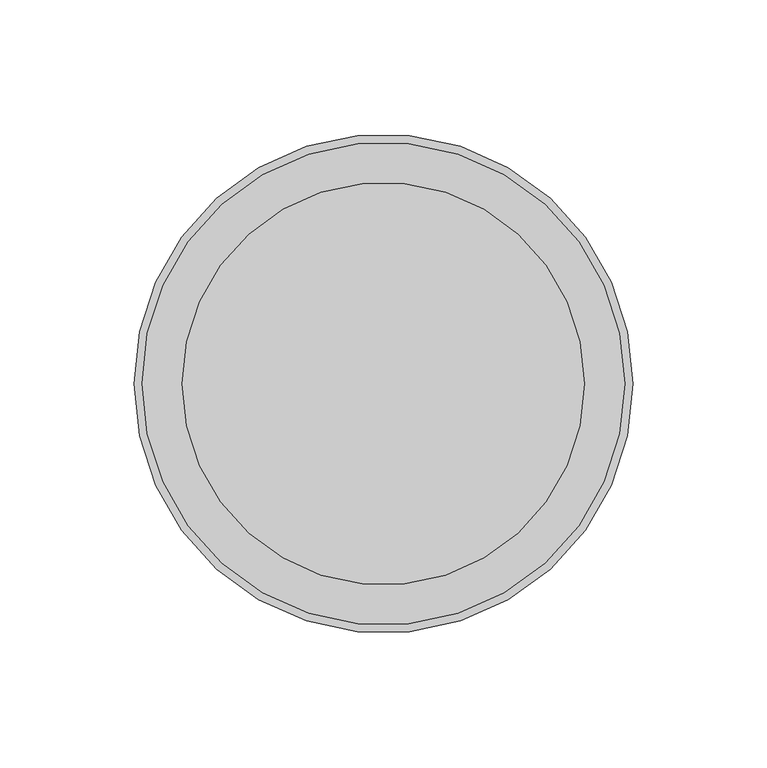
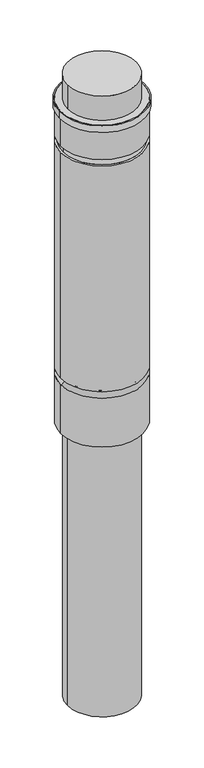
"""IFC4 building model written with IfcOpenShell, lengths in millimetres: air terminal geometry, DERS_431_LD_WPB_flue gas rooftop terminal_M&G : PP Black, ø150."""

from ifc_helpers import new_model, si_unit, point, frame, origin, origin_with_axes, origin_2d, place, context, project, spatial, circle_curve, ellipse_curve, trimmed, segment, composite_curve, outline, extrude, source, transform, mapped, element, save
from ifc_brep_helpers import plane_surface, cylinder_surface, revolved_surface, advanced_brep


def air_terminal_eb749a6a(model_context):
    return source(origin(), model_context, "Body", "SolidModel", [
        advanced_brep(
        [(-90.0, 0.0, 743.0), (90.0, 0.0, 743.0), (-90.0, 0.0, 0.0), (90.0, 0.0, 0.0), (-90.0, 0.0, 663.0), (90.0, 0.0, 663.0), (90.0, 0.0, 112.5), (-90.0, 0.0, 112.5), (90.0, 0.0, 648.0), (-90.0, 0.0, 648.0), (-90.0, 0.0, 127.5), (90.0, 0.0, 127.5), (85.0, 0.0, 663.0), (85.0, 0.0, 648.0), (-85.0, 0.0, 648.0), (-85.0, 0.0, 663.0)],
        [
            (0, 1, circle_curve(frame((0.0, 0.0, 743.0), z_axis=(0.0, 0.0, 1.0), x_axis=(1.0, 0.0, 0.0)), 90.0)),
            (1, 0, circle_curve(frame((0.0, 0.0, 743.0), z_axis=(0.0, 0.0, 1.0), x_axis=(1.0, 0.0, 0.0)), 90.0)),
            (2, 3, circle_curve(frame((0.0, 0.0, 0.0), z_axis=(0.0, 0.0, -1.0), x_axis=(1.0, 0.0, 0.0)), 90.0)),
            (3, 2, circle_curve(frame((0.0, 0.0, 0.0), z_axis=(0.0, 0.0, -1.0), x_axis=(1.0, 0.0, 0.0)), 90.0)),
            (0, 4),
            (4, 5, circle_curve(frame((0.0, 0.0, 663.0), z_axis=(0.0, 0.0, 1.0), x_axis=(1.0, 0.0, 0.0)), 90.0)),
            (5, 1),
            (3, 6),
            (6, 7, circle_curve(frame((0.0, 0.0, 112.5), z_axis=(0.0, 0.0, -1.0), x_axis=(1.0, 0.0, 0.0)), 90.0)),
            (7, 2),
            (8, 9, circle_curve(frame((0.0, 0.0, 648.0), z_axis=(0.0, 0.0, -1.0), x_axis=(1.0, 0.0, 0.0)), 90.0)),
            (9, 10),
            (10, 11, circle_curve(frame((0.0, 0.0, 127.5), z_axis=(0.0, 0.0, 1.0), x_axis=(1.0, 0.0, 0.0)), 90.0)),
            (11, 8),
            (5, 4, circle_curve(frame((0.0, 0.0, 663.0), z_axis=(0.0, 0.0, 1.0), x_axis=(1.0, 0.0, 0.0)), 90.0)),
            (7, 6, circle_curve(frame((0.0, 0.0, 112.5), z_axis=(0.0, 0.0, -1.0), x_axis=(1.0, 0.0, 0.0)), 90.0)),
            (9, 8, circle_curve(frame((0.0, 0.0, 648.0), z_axis=(0.0, 0.0, -1.0), x_axis=(1.0, 0.0, 0.0)), 90.0)),
            (11, 10, circle_curve(frame((0.0, 0.0, 127.5), z_axis=(0.0, 0.0, 1.0), x_axis=(1.0, 0.0, 0.0)), 90.0)),
            (12, 13),
            (13, 14, circle_curve(frame((0.0, 0.0, 648.0), z_axis=(0.0, 0.0, 1.0), x_axis=(-1.0, 0.0, 0.0)), 85.0)),
            (14, 15),
            (15, 12, circle_curve(frame((0.0, 0.0, 663.0), z_axis=(0.0, 0.0, -1.0), x_axis=(-1.0, 0.0, 0.0)), 85.0)),
            (15, 12, circle_curve(frame((0.0, 0.0, 663.0), z_axis=(0.0, 0.0, 1.0), x_axis=(1.0, 0.0, 0.0)), 85.0)),
            (13, 14, circle_curve(frame((0.0, 0.0, 648.0), z_axis=(0.0, 0.0, -1.0), x_axis=(1.0, 0.0, 0.0)), 85.0)),
            (7, 10, circle_curve(frame((-90.0, 0.0, 120.0), z_axis=(0.0, -1.0, 0.0), x_axis=(-1.0, 0.0, 0.0)), 7.5)),
            (11, 6, circle_curve(frame((90.0, 0.0, 120.0), z_axis=(0.0, -1.0, 0.0), x_axis=(1.0, 0.0, 0.0)), 7.5)),
        ],
        [
            plane_surface(frame((90.0, 0.0, 743.0), z_axis=(0.0, 0.0, 1.0), x_axis=(0.0, 1.0, 0.0))),
            plane_surface(frame((90.0, 0.0, 0.0), z_axis=(0.0, 0.0, -1.0), x_axis=(0.0, -1.0, 0.0))),
            cylinder_surface(origin_with_axes(), 90.0),
            cylinder_surface(frame((0.0, 0.0, 743.0), z_axis=(0.0, 0.0, -1.0), x_axis=(-1.0, 0.0, 0.0)), 85.0),
            plane_surface(frame((0.0, 0.0, 663.0), z_axis=(0.0, 0.0, -1.0), x_axis=(1.0, 0.0, 0.0))),
            plane_surface(frame((0.0, 0.0, 648.0), z_axis=(0.0, 0.0, 1.0), x_axis=(1.0, 0.0, 0.0))),
            cylinder_surface(frame((0.0, 0.0, 743.0), z_axis=(0.0, 0.0, -1.0), x_axis=(1.0, 0.0, 0.0)), 85.0),
            revolved_surface(trimmed(ellipse_curve(frame((90.0, 0.0, 120.0), z_axis=(0.0, 1.0, 0.0), x_axis=(1.0, 0.0, 0.0)), 7.5, 7.5), [point((90.0, 0.0, 112.5))], [point((90.0, 0.0, 127.5))], True, "CARTESIAN"), (0.0, 0.0, 0.0), (0.0, 0.0, 1.0)),
            revolved_surface(trimmed(ellipse_curve(frame((-90.0, 0.0, 120.0), z_axis=(0.0, -1.0, 0.0), x_axis=(-1.0, 0.0, 0.0)), 7.5, 7.5), [point((-90.0, 0.0, 112.5))], [point((-90.0, 0.0, 127.5))], True, "CARTESIAN"), (0.0, 0.0, 0.0), (0.0, 0.0, 1.0)),
        ],
        [
            (0, [[1, 2]]),
            (1, [[3, 4]]),
            (2, [[-1, 5, 6, 7]]),
            (2, [[-4, 8, 9, 10]]),
            (2, [[11, 12, 13, 14]]),
            (2, [[-2, -7, 15, -5]]),
            (2, [[-3, -10, 16, -8]]),
            (2, [[17, -14, 18, -12]]),
            (3, [[19, 20, 21, 22]]),
            (4, [[-6, -15], [-22, 23]]),
            (5, [[-11, -17], [-20, 24]]),
            (6, [[-19, -23, -21, -24]]),
            (7, [[25, -18, 26, -16]]),
            (8, [[-25, -9, -26, -13]]),
        ],
    ),
        extrude(outline(composite_curve([segment(trimmed(circle_curve(origin_2d(), 93.0), [point((-93.0, 0.0))], [point((93.0, 0.0))], False, "CARTESIAN"), True, "CONTINUOUS"), segment(trimmed(circle_curve(origin_2d(), 93.0), [point((93.0, 0.0))], [point((-93.0, 0.0))], False, "CARTESIAN"), True, "CONTINUOUS")], self_intersect=False), holes=[composite_curve([segment(trimmed(circle_curve(origin_2d(), 90.0), [point((90.0, 0.0))], [point((-90.0, 0.0))], True, "CARTESIAN"), True, "CONTINUOUS"), segment(trimmed(circle_curve(origin_2d(), 90.0), [point((-90.0, 0.0))], [point((90.0, 0.0))], True, "CARTESIAN"), True, "CONTINUOUS")], self_intersect=False)]), frame((0.0, 0.0, 728.0), z_axis=(0.0, 0.0, 1.0), x_axis=(1.0, 0.0, 0.0)), (0.0, 0.0, 1.0), 15.0),
        extrude(outline(composite_curve([segment(trimmed(circle_curve(origin_2d(), 75.0), [point((75.0, 0.0))], [point((-75.0, 0.0))], False, "CARTESIAN"), True, "CONTINUOUS"), segment(trimmed(circle_curve(origin_2d(), 75.0), [point((-75.0, 0.0))], [point((75.0, 0.0))], False, "CARTESIAN"), True, "CONTINUOUS")], self_intersect=False)), frame((0.0, 0.0, 743.0), z_axis=(0.0, 0.0, 1.0), x_axis=(1.0, 0.0, 0.0)), (0.0, 0.0, 1.0), 56.0),
        extrude(outline(composite_curve([segment(trimmed(circle_curve(origin_2d(), 75.0), [point((-75.0, 0.0))], [point((75.0, 0.0))], False, "CARTESIAN"), True, "CONTINUOUS"), segment(trimmed(circle_curve(origin_2d(), 75.0), [point((75.0, 0.0))], [point((-75.0, 0.0))], False, "CARTESIAN"), True, "CONTINUOUS")], self_intersect=False)), frame((0.0, 0.0, -632.8134487), z_axis=(0.0, 0.0, 1.0), x_axis=(1.0, 0.0, 0.0)), (0.0, 0.0, 1.0), 632.8134487),
    ])


if __name__ == "__main__":
    model = new_model("IFC4")
    model_context = context("Model", 3, world=origin())
    ifc_project = project(units=[si_unit("LENGTHUNIT", "METRE", prefix="MILLI")], contexts=[model_context])
    site = spatial("IfcSite", under=ifc_project)
    building = spatial("IfcBuilding", under=site)
    placement = place(None, origin())
    air_terminal_shape = air_terminal_eb749a6a(model_context)
    element("IfcAirTerminal", 1, ObjectType="DERS_431_LD_WPB_flue gas rooftop terminal_M&G : PP Black, ø150", at=placement, inside=building, context=model_context, shape_type="MappedRepresentation", body=[
        mapped(air_terminal_shape, transform((0.0, 0.0, 0.0), x_axis=(1.0, 0.0, 0.0), y_axis=(0.0, 1.0, 0.0), z_axis=(0.0, 0.0, 1.0))),
    ])
    save(model, "model.ifc")
